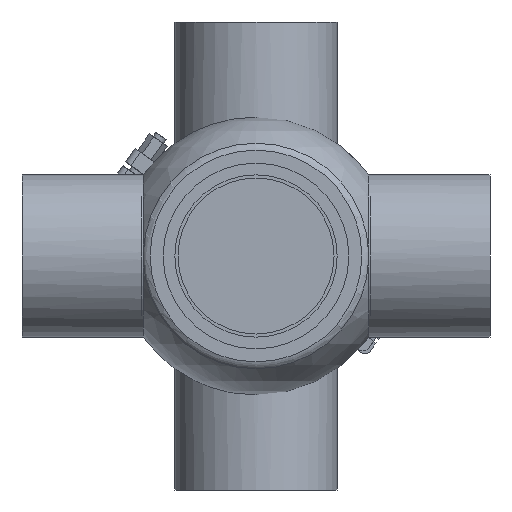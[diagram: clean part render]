
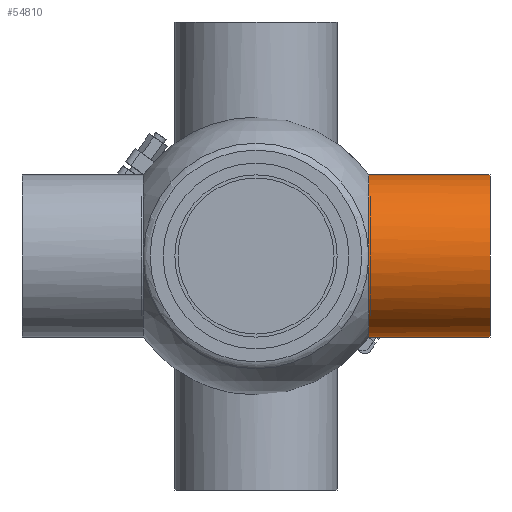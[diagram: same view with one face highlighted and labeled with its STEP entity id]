
A CAD part, front view. The second image highlights one B-rep face of the part: STEP entity #54810.
In plain terms, the highlighted cylindrical face has radius 52 mm (diameter 104 mm), a full revolution.
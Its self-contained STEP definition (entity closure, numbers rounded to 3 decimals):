
#427 = CARTESIAN_POINT ( 'NONE',  ( 72.229, -51.947, 2.34 ) ) ;
#1234 = EDGE_LOOP ( 'NONE', ( #51602 ) ) ;
#1592 = CARTESIAN_POINT ( 'NONE',  ( 72.229, -52.017, 0.786 ) ) ;
#4410 = EDGE_CURVE ( 'NONE', #16953, #32120, #40200, .T. ) ;
#6742 = DIRECTION ( 'NONE',  ( 0., 0., 1. ) ) ;
#9301 = EDGE_CURVE ( 'NONE', #32120, #25393, #28138, .T. ) ;
#9396 = AXIS2_PLACEMENT_3D ( 'NONE', #39696, #49020, #6742 ) ;
#9878 = CARTESIAN_POINT ( 'NONE',  ( 72.229, -51.947, -2.34 ) ) ;
#10151 = B_SPLINE_CURVE_WITH_KNOTS ( 'NONE', 3,
 ( #58191, #28896, #48841, #42916, #56959, #48214 ),
 .UNSPECIFIED., .F., .F.,
 ( 4, 2, 4 ),
 ( 0.252, 0.254, 0.255 ),
 .UNSPECIFIED. ) ;
#11259 = CIRCLE ( 'NONE', #21141, 52. ) ;
#12461 = FACE_OUTER_BOUND ( 'NONE', #59427, .T. ) ;
#12711 = ORIENTED_EDGE ( 'NONE', *, *, #4410, .T. ) ;
#16199 = CARTESIAN_POINT ( 'NONE',  ( 72.229, 51.971, 1.75 ) ) ;
#16953 = VERTEX_POINT ( 'NONE', #16199 ) ;
#18761 = CARTESIAN_POINT ( 'NONE',  ( 150., 0., 52. ) ) ;
#20617 = CARTESIAN_POINT ( 'NONE',  ( 72.229, 51.971, -1.75 ) ) ;
#21141 = AXIS2_PLACEMENT_3D ( 'NONE', #46936, #42290, #51952 ) ;
#22983 = DIRECTION ( 'NONE',  ( -1., 0., 0. ) ) ;
#25393 = VERTEX_POINT ( 'NONE', #9878 ) ;
#27444 = ORIENTED_EDGE ( 'NONE', *, *, #9301, .T. ) ;
#27592 = FACE_OUTER_BOUND ( 'NONE', #1234, .T. ) ;
#28138 = B_SPLINE_CURVE_WITH_KNOTS ( 'NONE', 3,
 ( #427, #1592, #28708, #40140 ),
 .UNSPECIFIED., .F., .F.,
 ( 4, 4 ),
 ( 0.022, 0.026 ),
 .UNSPECIFIED. ) ;
#28708 = CARTESIAN_POINT ( 'NONE',  ( 72.229, -52.018, -0.773 ) ) ;
#28896 = CARTESIAN_POINT ( 'NONE',  ( 72.243, 51.99, -1.17 ) ) ;
#29730 = EDGE_CURVE ( 'NONE', #25393, #46744, #11259, .T. ) ;
#31817 = DIRECTION ( 'NONE',  ( -1., 0., 0. ) ) ;
#32120 = VERTEX_POINT ( 'NONE', #58466 ) ;
#32407 = VERTEX_POINT ( 'NONE', #18761 ) ;
#32430 = CARTESIAN_POINT ( 'NONE',  ( 150., 0., 0. ) ) ;
#36794 = DIRECTION ( 'NONE',  ( 0., 0., 1. ) ) ;
#39308 = AXIS2_PLACEMENT_3D ( 'NONE', #32430, #31817, #36794 ) ;
#39696 = CARTESIAN_POINT ( 'NONE',  ( 72.229, 0., 0. ) ) ;
#40140 = CARTESIAN_POINT ( 'NONE',  ( 72.229, -51.947, -2.34 ) ) ;
#40200 = CIRCLE ( 'NONE', #9396, 52. ) ;
#41278 = CIRCLE ( 'NONE', #39308, 52. ) ;
#42290 = DIRECTION ( 'NONE',  ( 1., 0., 0. ) ) ;
#42916 = CARTESIAN_POINT ( 'NONE',  ( 72.25, 52., 0.584 ) ) ;
#43780 = EDGE_CURVE ( 'NONE', #32407, #32407, #41278, .T. ) ;
#45094 = ORIENTED_EDGE ( 'NONE', *, *, #47762, .T. ) ;
#45980 = CARTESIAN_POINT ( 'NONE',  ( 0., 0., 0. ) ) ;
#46570 = CYLINDRICAL_SURFACE ( 'NONE', #49536, 52. ) ;
#46744 = VERTEX_POINT ( 'NONE', #20617 ) ;
#46936 = CARTESIAN_POINT ( 'NONE',  ( 72.229, 0., 0. ) ) ;
#46947 = ORIENTED_EDGE ( 'NONE', *, *, #29730, .T. ) ;
#47762 = EDGE_CURVE ( 'NONE', #46744, #16953, #10151, .T. ) ;
#48214 = CARTESIAN_POINT ( 'NONE',  ( 72.229, 51.971, 1.75 ) ) ;
#48841 = CARTESIAN_POINT ( 'NONE',  ( 72.25, 52., -0.587 ) ) ;
#49020 = DIRECTION ( 'NONE',  ( 1., 0., 0. ) ) ;
#49536 = AXIS2_PLACEMENT_3D ( 'NONE', #45980, #22983, #60914 ) ;
#51602 = ORIENTED_EDGE ( 'NONE', *, *, #43780, .T. ) ;
#51952 = DIRECTION ( 'NONE',  ( 0., 0., 1. ) ) ;
#54810 = ADVANCED_FACE ( 'NONE', ( #12461, #27592 ), #46570, .T. ) ;
#56959 = CARTESIAN_POINT ( 'NONE',  ( 72.243, 51.99, 1.168 ) ) ;
#58191 = CARTESIAN_POINT ( 'NONE',  ( 72.229, 51.971, -1.75 ) ) ;
#58466 = CARTESIAN_POINT ( 'NONE',  ( 72.229, -51.947, 2.34 ) ) ;
#59427 = EDGE_LOOP ( 'NONE', ( #12711, #27444, #46947, #45094 ) ) ;
#60914 = DIRECTION ( 'NONE',  ( 0., 0., 1. ) ) ;
